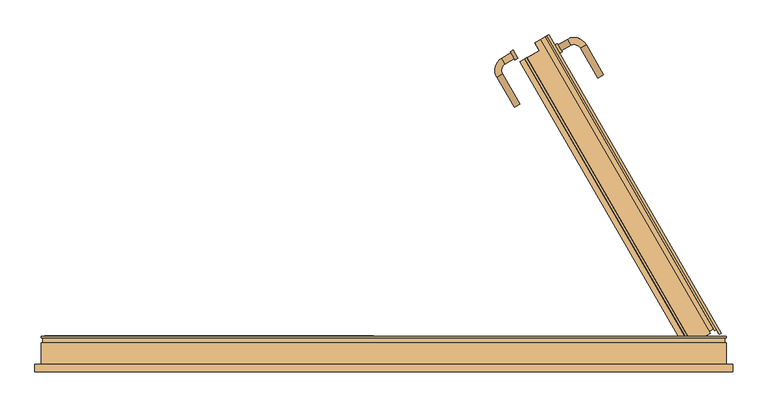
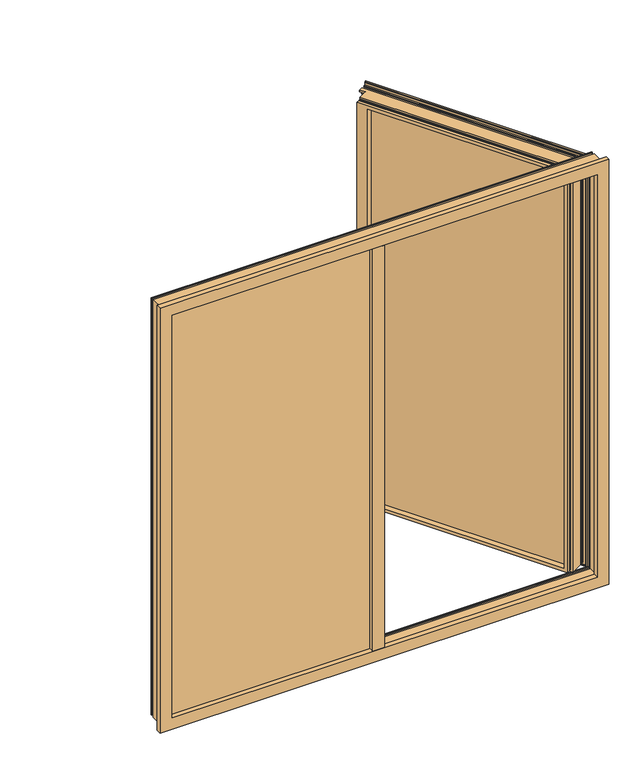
"""IFC4 building model written with IfcOpenShell, lengths in millimetres: door geometry, Comfort+_CID-2_Metaglas : KozijnMerk."""

import ifcopenshell
import ifcopenshell.guid

model = None  # the IFC model being written
_history = None  # IfcOwnerHistory: only IFC2X3 demands one
_inside = {}  # id of a spatial element -> (the spatial element, [elements in it])
_under = {}  # id of a project, library or spatial element -> (it, [spatial elements below it])
_declared = {}  # id of a project -> (the project, [libraries it declares])
_typed = {}  # id of a type object -> (the type object, [elements of that type])
_made_of = {}  # id of a material, layer set ... -> (it, [elements and type objects made of it])


def new_model(schema):
    """Start an empty IFC model of exactly this schema.

    Asked for "IFC4X3", IfcOpenShell would pick the latest addendum, in which some entities
    have other attributes; the version numbers below select the first issue.
    IFC2X3 requires an IfcOwnerHistory on every rooted entity: one is made here for all.
    """
    global model, _history
    if schema == "IFC4X3":
        model = ifcopenshell.file(schema_version=(4, 3, 0, 0))
    else:
        model = ifcopenshell.file(schema=schema)
    _inside.clear()
    _under.clear()
    _declared.clear()
    _typed.clear()
    _made_of.clear()
    _history = None
    if model.schema == "IFC2X3":
        org = make("IfcOrganization", Name="unknown")
        user = make(
            "IfcPersonAndOrganization",
            ThePerson=make("IfcPerson", FamilyName="unknown"),
            TheOrganization=org,
        )
        app = make(
            "IfcApplication",
            ApplicationDeveloper=org,
            Version="unknown",
            ApplicationFullName="unknown",
            ApplicationIdentifier="unknown",
        )
        _history = make(
            "IfcOwnerHistory",
            OwningUser=user,
            OwningApplication=app,
            ChangeAction="ADDED",
            CreationDate=0,
        )
    return model


def make(cls, **values):
    """One entity of the class cls with the attributes given. An attribute that is None is left unset."""
    return model.create_entity(
        cls, **{name: value for name, value in values.items() if value is not None}
    )


def rooted(cls, **values):
    """An entity with a GlobalId (a new one), such as an element, a storey or a relation."""
    return make(cls, GlobalId=ifcopenshell.guid.new(), OwnerHistory=_history, **values)


def si_unit(unit_type, name, prefix=None):
    """IfcSIUnit, for example si_unit("LENGTHUNIT", "METRE", prefix="MILLI")."""
    return make("IfcSIUnit", UnitType=unit_type, Prefix=prefix, Name=name)


def assignment(units):
    """IfcUnitAssignment: the units of a project."""
    return None if units is None else make("IfcUnitAssignment", Units=units)


def point(xyz):
    """IfcCartesianPoint."""
    return None if xyz is None else make("IfcCartesianPoint", Coordinates=xyz)


def direction(xyz):
    """IfcDirection."""
    return None if xyz is None else make("IfcDirection", DirectionRatios=xyz)


def frame(location, z_axis=None, x_axis=None):
    """IfcAxis2Placement3D, a coordinate frame: its origin and axes. An axis left out is left unset."""
    return make(
        "IfcAxis2Placement3D",
        Location=point(location),
        Axis=direction(z_axis),
        RefDirection=direction(x_axis),
    )


def frame_2d(location, x_axis=None):
    """IfcAxis2Placement2D, a coordinate frame in the plane: its origin and x axis."""
    return make(
        "IfcAxis2Placement2D", Location=point(location), RefDirection=direction(x_axis)
    )


def origin():
    """The frame at (0, 0, 0) with its axes left unset."""
    return frame((0.0, 0.0, 0.0))


def place(relative_to, where):
    """IfcLocalPlacement: puts the frame where relative to a parent placement (None: the world)."""
    return make(
        "IfcLocalPlacement", PlacementRelTo=relative_to, RelativePlacement=where
    )


def context(
    kind, dimensions, precision=None, world=None, true_north=None, identifier=None
):
    """IfcGeometricRepresentationContext, for example the 3D "Model" context."""
    return make(
        "IfcGeometricRepresentationContext",
        ContextIdentifier=identifier,
        ContextType=kind,
        CoordinateSpaceDimension=dimensions,
        Precision=precision,
        WorldCoordinateSystem=world,
        TrueNorth=true_north,
    )


def project(units=None, contexts=None):
    """IfcProject with its units and contexts."""
    return rooted(
        "IfcProject",
        Name="project",
        RepresentationContexts=contexts,
        UnitsInContext=assignment(units),
    )


def spatial(cls, under=None, at=None, **own):
    """A site, building, storey or space (cls), placed at a placement, below another one or the project."""
    s = rooted(cls, ObjectPlacement=at, **own)
    if under is not None:
        _under.setdefault(under.id(), (under, []))[1].append(s)
    return s


def polyline(points):
    """IfcPolyline through the points."""
    return make("IfcPolyline", Points=[point(p) for p in points])


def circle_curve(where, radius):
    """IfcCircle in the frame where."""
    return make("IfcCircle", Position=where, Radius=radius)


def ellipse_curve(where, semi_axis1, semi_axis2):
    """IfcEllipse in the frame where."""
    return make(
        "IfcEllipse", Position=where, SemiAxis1=semi_axis1, SemiAxis2=semi_axis2
    )


def trimmed(basis, trim1, trim2, sense, master):
    """IfcTrimmedCurve: the piece of a basis curve between two trims."""
    return make(
        "IfcTrimmedCurve",
        BasisCurve=basis,
        Trim1=trim1,
        Trim2=trim2,
        SenseAgreement=sense,
        MasterRepresentation=master,
    )


def segment(curve, same_sense, transition):
    """IfcCompositeCurveSegment."""
    return make(
        "IfcCompositeCurveSegment",
        Transition=transition,
        SameSense=same_sense,
        ParentCurve=curve,
    )


def composite_curve(segments, self_intersect=None):
    """IfcCompositeCurve: segments joined end to end."""
    return make("IfcCompositeCurve", Segments=segments, SelfIntersect=self_intersect)


def outline(outer, holes=None, kind="AREA"):
    """IfcArbitraryClosedProfileDef: a profile drawn as a closed curve; with holes, ...WithVoids."""
    if holes is None:
        return make("IfcArbitraryClosedProfileDef", ProfileType=kind, OuterCurve=outer)
    return make(
        "IfcArbitraryProfileDefWithVoids",
        ProfileType=kind,
        OuterCurve=outer,
        InnerCurves=holes,
    )


def extrude(swept, where, along, depth):
    """IfcExtrudedAreaSolid: the profile swept, set in the frame where, extruded along a direction by depth."""
    return make(
        "IfcExtrudedAreaSolid",
        SweptArea=swept,
        Position=where,
        ExtrudedDirection=direction(along),
        Depth=depth,
    )


def faces_of(points, faces, orient=None, outer=None):
    """IfcFace entities. A face is a list of loops; a loop is a list of indices into points, from 0.

    orient and outer hold one flag for each loop. By default every Orientation is true, the
    first loop of a face is its IfcFaceOuterBound and the others are IfcFaceBound.
    """
    made = []
    for i, loops in enumerate(faces):
        bounds = []
        for j, loop in enumerate(loops):
            is_outer = j == 0 if outer is None else outer[i][j]
            bounds.append(
                make(
                    "IfcFaceOuterBound" if is_outer else "IfcFaceBound",
                    Bound=make("IfcPolyLoop", Polygon=[points[k] for k in loop]),
                    Orientation=True if orient is None else orient[i][j],
                )
            )
        made.append(make("IfcFace", Bounds=bounds))
    return made


def faceted_brep(points, faces, orient=None, outer=None, voids=None):
    """IfcFacetedBrep: a solid bounded by flat faces; with voids (closed shells), ...WithVoids."""
    shared = [point(p) for p in points]
    hull = make("IfcClosedShell", CfsFaces=faces_of(shared, faces, orient, outer))
    if voids is None:
        return make("IfcFacetedBrep", Outer=hull)
    return make(
        "IfcFacetedBrepWithVoids",
        Outer=hull,
        Voids=[
            make(cls, CfsFaces=faces_of(shared, fs, o, b)) for cls, fs, o, b in voids
        ],
    )


def shape(context_of_items, identifier, shape_type, items):
    """IfcShapeRepresentation: the items that make up one representation, for example the "Body"."""
    return make(
        "IfcShapeRepresentation",
        ContextOfItems=context_of_items,
        RepresentationIdentifier=identifier,
        RepresentationType=shape_type,
        Items=items,
    )


def source(mapping_origin, context_of_items, identifier, shape_type, items):
    """IfcRepresentationMap: a shape defined once, which mapped items show again and again."""
    return make(
        "IfcRepresentationMap",
        MappingOrigin=mapping_origin,
        MappedRepresentation=shape(context_of_items, identifier, shape_type, items),
    )


def transform(
    local_origin,
    x_axis=None,
    y_axis=None,
    z_axis=None,
    scale=None,
    scale2=None,
    scale3=None,
    uniform=True,
):
    """IfcCartesianTransformationOperator3D, or its non-uniform kind. x_axis, y_axis, z_axis: its Axis1, 2, 3."""
    if uniform:
        return make(
            "IfcCartesianTransformationOperator3D",
            Axis1=direction(x_axis),
            Axis2=direction(y_axis),
            LocalOrigin=point(local_origin),
            Scale=scale,
            Axis3=direction(z_axis),
        )
    return make(
        "IfcCartesianTransformationOperator3DnonUniform",
        Axis1=direction(x_axis),
        Axis2=direction(y_axis),
        LocalOrigin=point(local_origin),
        Scale=scale,
        Axis3=direction(z_axis),
        Scale2=scale2,
        Scale3=scale3,
    )


def mapped(mapping_source, mapping_target):
    """IfcMappedItem: shows the shape of a source again, moved by a transform."""
    return make(
        "IfcMappedItem", MappingSource=mapping_source, MappingTarget=mapping_target
    )


def made_of(thing, what):
    """Note that an element or type object is made of a material, layer set ...; save() writes the relation."""
    if what is not None:
        _made_of.setdefault(what.id(), (what, []))[1].append(thing)
    return thing


def element(
    cls,
    number,
    at=None,
    inside=None,
    cuts=None,
    type_object=None,
    material=None,
    context=None,
    identifier="Body",
    shape_type=None,
    held_by="IfcProductDefinitionShape",
    body=None,
    shapes=None,
    **own,
):
    """One element of the class cls, such as IfcWall. Its Tag is "e" and its number.

    at: its placement. inside: the storey or other place that contains it. cuts: it is an
    opening in that element (IfcRelVoidsElement). A single representation is given by context,
    identifier, shape_type and body (its items); several are given by shapes. held_by: the class
    of the entity that holds the representations. save() writes the other relations.
    """
    e = rooted(cls, Tag="e%d" % number, ObjectPlacement=at, **own)
    if body is not None:
        shapes = [shape(context, identifier, shape_type, body)]
    if shapes is not None:
        e.Representation = make(held_by, Representations=shapes)
    if inside is not None:
        _inside.setdefault(inside.id(), (inside, []))[1].append(e)
    if cuts is not None:
        rooted(
            "IfcRelVoidsElement", RelatingBuildingElement=cuts, RelatedOpeningElement=e
        )
    if type_object is not None:
        _typed.setdefault(type_object.id(), (type_object, []))[1].append(e)
    return made_of(e, material)


def aggregate(whole, parts):
    """IfcRelAggregates: a whole, such as a stair, and the parts it consists of."""
    return rooted("IfcRelAggregates", RelatingObject=whole, RelatedObjects=parts)


def save(model, path):
    """Write the relations noted so far, then the file.

    IfcRelAggregates (storeys below a building ...), IfcRelContainedInSpatialStructure (elements
    in a storey), IfcRelDefinesByType, IfcRelAssociatesMaterial and IfcRelDeclares: one each for
    every whole, place, type object, material and project.
    """
    for whole, parts in _under.values():
        aggregate(whole, parts)
    for where, things in _inside.values():
        rooted(
            "IfcRelContainedInSpatialStructure",
            RelatedElements=things,
            RelatingStructure=where,
        )
    for kind, things in _typed.values():
        rooted("IfcRelDefinesByType", RelatedObjects=things, RelatingType=kind)
    for what, things in _made_of.values():
        rooted("IfcRelAssociatesMaterial", RelatedObjects=things, RelatingMaterial=what)
    for by, libraries in _declared.values():
        rooted("IfcRelDeclares", RelatingContext=by, RelatedDefinitions=libraries)
    model.write(path)


def plane_surface(at):
    """IfcPlane: the flat surface through the origin of the frame at, square to its z axis."""
    return make("IfcPlane", Position=at)


def cylinder_surface(at, radius):
    """IfcCylindricalSurface: all points at the distance radius from the z axis of the frame at."""
    return make("IfcCylindricalSurface", Position=at, Radius=radius)


def revolved_surface(curve, axis_point, axis_direction):
    """IfcSurfaceOfRevolution: the curve turned about the line through axis_point along axis_direction."""
    return make(
        "IfcSurfaceOfRevolution",
        SweptCurve=make("IfcArbitraryOpenProfileDef", ProfileType="CURVE", Curve=curve),
        AxisPosition=make("IfcAxis1Placement", Location=point(axis_point), Axis=direction(axis_direction)),
    )


def advanced_brep(points, edges, surfaces, faces):
    """IfcAdvancedBrep: a solid bounded by faces that lie on surfaces and meet in shared edges.

    An edge is (start, end): straight between two places in points (the first is 0);
    or (start, end, curve); or (start, end, curve, False) where it runs against its curve.
    A face is (place in surfaces, loops), or (place, loops, False) where it looks against
    its surface's normal. A loop lists edges by number (the first is 1), with a minus sign
    where the edge is run from its end to its start. The first loop is the outer one.
    """
    corners = [point(p) for p in points]
    vertices = [make("IfcVertexPoint", VertexGeometry=c) for c in corners]
    made = []
    for start, end, *more in edges:
        made.append(
            make(
                "IfcEdgeCurve",
                EdgeStart=vertices[start],
                EdgeEnd=vertices[end],
                EdgeGeometry=more[0] if more else make("IfcPolyline", Points=[corners[start], corners[end]]),
                SameSense=more[1] if len(more) > 1 else True,
            )
        )
    hull = []
    for where, loops, *sense in faces:
        bounds = []
        for j, loop in enumerate(loops):
            ring = [make("IfcOrientedEdge", EdgeElement=made[abs(k) - 1], Orientation=k > 0) for k in loop]
            bounds.append(
                make(
                    "IfcFaceOuterBound" if j == 0 else "IfcFaceBound",
                    Bound=make("IfcEdgeLoop", EdgeList=ring),
                    Orientation=True,
                )
            )
        hull.append(make("IfcAdvancedFace", Bounds=bounds, FaceSurface=surfaces[where], SameSense=sense[0] if sense else True))
    return make("IfcAdvancedBrep", Outer=make("IfcClosedShell", CfsFaces=hull))


def door_63323bb3(model_context):
    return source(origin(), model_context, "Body", "SolidModel", [
        extrude(outline(composite_curve([segment(polyline([(-142.592674, 0.0), (30.413355, 0.0)]), True, "CONTINUOUS"), segment(trimmed(circle_curve(frame_2d((30.413355, -14.0)), 14.0), [point((30.413355, 0.0))], [point((30.413355, -28.0))], False, "CARTESIAN"), True, "CONTINUOUS"), segment(polyline([(30.413355, -28.0), (-142.592674, -28.0)]), True, "CONTINUOUS"), segment(trimmed(circle_curve(frame_2d((-142.592674, -14.0)), 14.0), [point((-142.592674, -28.0))], [point((-142.592674, 0.0))], False, "CARTESIAN"), True, "CONTINUOUS")], self_intersect=False)), frame((362.6241819, 868.4962512, 1793.4152867), z_axis=(0.8660254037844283, 0.5000000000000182, 0.0), x_axis=(0.0, 0.0, -1.0)), (0.0, 0.0, 1.0), 9.0),
        advanced_brep(
        [(364.8741819, 864.5991369, 1922.5), (374.3741819, 848.1446542, 1922.5), (338.4604071, 849.3491369, 1922.5), (347.9604071, 832.8946542, 1922.5), (340.4568863, 804.8911334, 1922.5), (324.0024037, 795.3911334, 1922.5), (374.0024036, 708.7885931, 1922.5), (390.4568863, 718.2885931, 1922.5)],
        [
            (0, 1, circle_curve(frame((369.6241819, 856.3718956, 1922.5), z_axis=(0.8660254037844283, 0.5000000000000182, 0.0), x_axis=(0.5000000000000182, -0.8660254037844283, 0.0)), 9.5)),
            (1, 0, circle_curve(frame((369.6241819, 856.3718956, 1922.5), z_axis=(0.8660254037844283, 0.5000000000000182, 0.0), x_axis=(0.5000000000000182, -0.8660254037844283, 0.0)), 9.5)),
            (0, 2),
            (2, 3, circle_curve(frame((343.2104071, 841.1218956, 1922.5), z_axis=(0.8660254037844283, 0.5000000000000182, 0.0), x_axis=(0.5000000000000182, -0.8660254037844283, 0.0)), 9.5)),
            (3, 1),
            (3, 2, circle_curve(frame((343.2104071, 841.1218956, 1922.5), z_axis=(0.8660254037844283, 0.5000000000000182, 0.0), x_axis=(0.5000000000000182, -0.8660254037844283, 0.0)), 9.5)),
            (4, 3, circle_curve(frame((358.2104071, 815.1411334, 1922.5), z_axis=(0.0, 0.0, -1.0), x_axis=(-0.5000000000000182, 0.8660254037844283, 0.0)), 20.5)),
            (2, 5, circle_curve(frame((358.2104071, 815.1411334, 1922.5), z_axis=(0.0, 0.0, 1.0), x_axis=(-0.5000000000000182, 0.8660254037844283, 0.0)), 39.5)),
            (5, 4, circle_curve(frame((332.229645, 800.1411334, 1922.5), z_axis=(-0.5000000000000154, 0.8660254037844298, 0.0), x_axis=(0.8660254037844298, 0.5000000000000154, 0.0)), 9.5)),
            (4, 5, circle_curve(frame((332.229645, 800.1411334, 1922.5), z_axis=(-0.5000000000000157, 0.8660254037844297, 0.0), x_axis=(0.8660254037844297, 0.5000000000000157, 0.0)), 9.5)),
            (6, 7, circle_curve(frame((382.229645, 713.5385931, 1922.5), z_axis=(0.5000000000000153, -0.8660254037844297, 0.0), x_axis=(0.8660254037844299, 0.5000000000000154, 0.0)), 9.5)),
            (7, 6, circle_curve(frame((382.229645, 713.5385931, 1922.5), z_axis=(0.5000000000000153, -0.8660254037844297, 0.0), x_axis=(0.8660254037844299, 0.5000000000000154, 0.0)), 9.5)),
            (5, 6),
            (7, 4),
        ],
        [
            plane_surface(frame((369.6241819, 856.3718956, 1922.5), z_axis=(0.8660254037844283, 0.5000000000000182, 0.0), x_axis=(0.0, 0.0, 1.0))),
            cylinder_surface(frame((369.6241819, 856.3718956, 1922.5), z_axis=(0.8660254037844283, 0.5000000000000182, 0.0), x_axis=(0.5000000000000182, -0.8660254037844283, 0.0)), 9.5),
            revolved_surface(trimmed(ellipse_curve(frame((343.2104071, 841.1218956, 1922.5), z_axis=(0.8660254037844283, 0.5000000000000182, 0.0), x_axis=(0.5000000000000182, -0.8660254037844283, 0.0)), 9.5, 9.5), [point((338.4604071, 849.3491369, 1922.5))], [point((347.9604071, 832.8946542, 1922.5))], True, "CARTESIAN"), (358.2104071, 815.1411334, 1922.5), (0.0, 0.0, 1.0000000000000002)),
            revolved_surface(trimmed(ellipse_curve(frame((343.2104071, 841.1218956, 1922.5), z_axis=(0.8660254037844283, 0.5000000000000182, 0.0), x_axis=(0.5000000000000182, -0.8660254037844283, 0.0)), 9.5, 9.5), [point((347.9604071, 832.8946542, 1922.5))], [point((338.4604071, 849.3491369, 1922.5))], True, "CARTESIAN"), (358.2104071, 815.1411334, 1922.5), (0.0, 0.0, 1.0000000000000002)),
            plane_surface(frame((382.229645, 713.5385931, 1922.5), z_axis=(0.5000000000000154, -0.8660254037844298, 0.0), x_axis=(0.0, 0.0, 1.0))),
            cylinder_surface(frame((332.229645, 800.1411334, 1922.5), z_axis=(-0.5000000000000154, 0.8660254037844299, 0.0), x_axis=(0.8660254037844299, 0.5000000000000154, 0.0)), 9.5),
        ],
        [
            (0, [[1, 2]]),
            (1, [[-1, 3, 4, 5]]),
            (1, [[-2, -5, 6, -3]]),
            (2, [[7, -4, 8, 9]]),
            (3, [[-8, -6, -7, 10]]),
            (4, [[11, 12]]),
            (5, [[-9, 13, -12, 14]]),
            (5, [[-10, -14, -11, -13]]),
        ],
    ),
        extrude(outline(polyline([(474.8051363, 844.9930889), (922.8551363, 68.9477245), (917.6589838, 65.9477245), (469.6089838, 841.9930889), (474.8051363, 844.9930889)])), frame((0.0, 0.0, 858.0), z_axis=(0.0, 0.0, 1.0), x_axis=(1.0, 0.0, 0.0)), (0.0, 0.0, 1.0), 1884.0),
        extrude(outline(polyline([(456.6186028, 834.4930889), (904.6686028, 58.4477245), (900.7714885, 56.1977245), (452.7214885, 832.2430889), (456.6186028, 834.4930889)])), frame((0.0, 0.0, 858.0), z_axis=(0.0, 0.0, 1.0), x_axis=(1.0, 0.0, 0.0)), (0.0, 0.0, 1.0), 1884.0),
        extrude(outline(polyline([(439.7311074, 824.7430889), (887.7811074, 48.6977245), (882.584955, 45.6977245), (434.534955, 821.7430889), (439.7311074, 824.7430889)])), frame((0.0, 0.0, 858.0), z_axis=(0.0, 0.0, 1.0), x_axis=(1.0, 0.0, 0.0)), (0.0, 0.0, 1.0), 1884.0),
        extrude(outline(polyline([(896.1000001, -1884.0), (0.0, -1884.0), (0.0, 0.0), (896.1000001, 0.0), (896.1000001, -1884.0)]), holes=[polyline([(884.1, -12.0), (12.0, -12.0), (12.0, -1872.0), (884.1, -1872.0), (884.1, -12.0)])]), frame((904.6686028, 58.4477245, 2742.0), z_axis=(0.8660254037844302, 0.5000000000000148, 0.0), x_axis=(-0.5000000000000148, 0.8660254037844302, 0.0)), (0.0, 0.0, 1.0), 15.0),
        extrude(outline(polyline([(896.1000001, -1884.0), (0.0, -1884.0), (0.0, 0.0), (896.1000001, 0.0), (896.1000001, -1884.0)]), holes=[polyline([(884.1, -12.0), (12.0, -12.0), (12.0, -1872.0), (884.1, -1872.0), (884.1, -12.0)])]), frame((887.7811074, 48.6977245, 2742.0), z_axis=(0.8660254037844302, 0.5000000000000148, 0.0), x_axis=(-0.5000000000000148, 0.8660254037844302, 0.0)), (0.0, 0.0, 1.0), 15.0),
        faceted_brep([(445.2871919, 900.1196794, 2727.9999691), (445.2871919, 900.1196794, 2744.0999691), (433.376379, 893.2429684, 2744.0999691), (433.376379, 893.2429684, 2752.5013297), (449.6606202, 902.6446794, 2752.5013297), (449.6606202, 902.6446794, 2751.0), (447.4955567, 901.3946794, 2751.0), (447.4955567, 901.3946794, 2747.993792), (449.6606202, 902.6446794, 2747.993792), (449.6606202, 902.6446794, 2746.50005), (462.6501988, 910.1442161, 2746.50005), (462.6501988, 910.1442161, 2748.00002), (464.8158106, 911.3945326, 2748.00002), (464.8158106, 911.3945326, 2751.0), (462.6501988, 910.1442161, 2751.0), (462.6501988, 910.1442161, 2752.5013297), (467.8038524, 913.1196794, 2752.5013297), (467.8038524, 913.1196794, 2762.0431852), (470.7082299, 914.7965225, 2762.0431852), (470.7082299, 914.7965225, 2765.9068148), (467.8038524, 913.1196794, 2765.9068148), (467.8038524, 913.1196794, 2768.0), (473.0, 916.1196766, 2768.0), (473.0, 916.1196766, 832.0), (467.8038524, 913.1196794, 832.0), (467.8038524, 913.1196794, 834.0931852), (470.7082299, 914.7965225, 834.0931852), (470.7082299, 914.7965225, 837.9568148), (467.8038524, 913.1196794, 837.9568148), (467.8038524, 913.1196794, 847.4986703), (462.6501988, 910.1442161, 847.4986703), (462.6501988, 910.1442161, 849.0), (464.8158106, 911.3945326, 849.0), (464.8158106, 911.3945326, 851.99998), (462.6501988, 910.1442161, 851.99998), (462.6501988, 910.1442161, 853.49995), (449.6606202, 902.6446794, 853.49995), (449.6606202, 902.6446794, 852.006208), (447.4955567, 901.3946794, 852.006208), (447.4955567, 901.3946794, 849.0), (449.6606202, 902.6446794, 849.0), (449.6606202, 902.6446794, 847.4986703), (433.376379, 893.2429684, 847.4986703), (433.376379, 893.2429684, 855.9000309), (445.2871919, 900.1196794, 855.9000309), (445.2871919, 900.1196794, 872.0000309), (467.8038524, 913.1196794, 872.0000309), (467.8038524, 913.1196794, 2727.9999691), (967.05, 60.3999751, 2768.0), (967.05, 60.3999751, 832.0), (947.0499845, 95.041018, 872.0000309), (947.0499845, 95.041018, 2727.9999691), (509.5, 852.8998221, 2727.9999691), (509.5, 852.8998221, 872.0000309), (961.8538524, 57.3999779, 832.0), (960.8072599, 59.2127295, 2765.9068148), (960.8072599, 59.2127295, 834.0931852), (961.8538524, 57.3999779, 2768.0), (963.7116374, 60.8895726, 834.0931852), (961.7798225, 64.235574, 2762.0431852), (961.7798225, 64.235574, 837.9568148), (963.7116374, 60.8895726, 2765.9068148), (958.875445, 62.5587309, 837.9568148), (954.1045173, 70.8222201, 2752.5013297), (954.1045173, 70.8222201, 847.4986703), (958.875445, 62.5587309, 2762.0431852), (948.9508637, 67.8467568, 847.4986703), (948.2001988, 69.1469465, 2751.0), (948.2001988, 69.1469465, 849.0), (948.9508637, 67.8467568, 2752.5013297), (950.3658106, 70.397263, 849.0), (948.8658206, 72.9953219, 2748.00002), (948.8658206, 72.9953219, 851.99998), (950.3658106, 70.397263, 2751.0), (946.7002088, 71.7450054, 851.99998), (945.9502238, 73.0440175, 2746.50005), (945.9502238, 73.0440175, 853.49995), (946.7002088, 71.7450054, 2748.00002), (932.9606452, 65.5444808, 853.49995), (933.7075163, 64.2508623, 2747.993792), (933.7075163, 64.2508623, 852.006208), (932.9606452, 65.5444808, 2746.50005), (931.5424527, 63.0008623, 852.006208), (933.0455567, 60.3974098, 2751.0), (933.0455567, 60.3974098, 849.0), (931.5424527, 63.0008623, 2747.993792), (935.2106202, 61.6474098, 849.0), (935.9612851, 60.3472201, 2752.5013297), (935.9612851, 60.3472201, 847.4986703), (935.2106202, 61.6474098, 2751.0), (884.9091042, 30.8722298, 847.4986703), (411.3342484, 851.1279412, 847.4986703), (446.102188, 871.2012206, 847.4986703), (446.102188, 871.2012206, 855.9000309), (446.102188, 871.2012206, 872.0000309), (446.102188, 871.2012206, 2727.9999691), (441.0515092, 879.949253, 2727.9999691), (441.0515092, 879.949253, 872.0000309), (446.102188, 871.2012206, 2744.0999691), (446.102188, 871.2012206, 2752.5013297), (927.3871765, 65.0980119, 855.9000309), (413.504204, 852.3807657, 855.9000309), (882.8783795, 39.4008459, 855.9000309), (452.9623221, 886.8259641, 2727.9999691), (473.3879834, 851.4476809, 2727.9999691), (473.3879834, 851.4476809, 872.0000309), (452.9623221, 886.8259641, 872.0000309), (927.3871765, 65.0980119, 2744.0999691), (919.3371765, 79.0410209, 2727.9999691), (919.3371765, 79.0410209, 872.0000309), (481.7871919, 836.8998249, 872.0000309), (481.7871919, 836.8998249, 2727.9999691), (457.3357504, 889.3509641, 872.0000309), (458.0864152, 888.0507744, 872.0000309), (455.9213517, 886.8007744, 872.0000309), (457.4244557, 884.197322, 872.0000309), (459.5895192, 885.447322, 872.0000309), (460.3363902, 884.1537034, 872.0000309), (473.3259688, 891.6532401, 872.0000309), (472.5759838, 892.9522522, 872.0000309), (474.7415955, 894.2025687, 872.0000309), (473.2416055, 896.8006276, 872.0000309), (471.0759938, 895.5503111, 872.0000309), (470.325329, 896.8505008, 872.0000309), (475.4789826, 899.8259641, 872.0000309), (470.7080548, 908.0894533, 872.0000309), (473.6124323, 909.7662964, 872.0000309), (471.6806175, 913.1122979, 872.0000309), (468.77624, 911.4354548, 872.0000309), (468.77624, 911.4354548, 2727.9999691), (428.0082689, 825.2476905, 2727.9999691), (428.0082689, 825.2476905, 872.0000309), (412.6332865, 851.8779412, 872.0000309), (882.8783795, 39.4008459, 2744.0999691), (880.6442053, 41.2592514, 2741.3734556), (880.6442053, 41.2592514, 858.6265444), (412.6332865, 851.8779412, 858.6265444), (412.6332865, 851.8779412, 865.7398087), (877.0875731, 47.419519, 865.7398087), (877.0875731, 47.419519, 2734.2601913), (412.6332865, 851.8779412, 2734.2601913), (412.6332865, 851.8779412, 2741.3734556), (390.116626, 838.8779412, 2742.3999232), (402.695645, 846.1404412, 2742.3999232), (402.695645, 846.1404412, 2740.0499232), (405.2504199, 847.6154412, 2740.0499232), (405.2504199, 847.6154412, 2742.3999232), (409.5564809, 850.1015467, 2742.3999232), (411.3342484, 851.1279412, 2744.4527122), (411.3342484, 851.1279412, 2752.5013297), (413.504204, 852.3807657, 2744.0999691), (409.8530645, 850.2727793, 2734.2601913), (409.8530645, 850.2727793, 2730.3897468), (412.6332865, 851.8779412, 2730.3897468), (412.6332865, 851.8779412, 2727.9999691), (412.6332865, 851.8779412, 869.6102532), (409.8530645, 850.2727793, 869.6102532), (409.8530645, 850.2727793, 865.7398087), (411.3342484, 851.1279412, 855.5472878), (409.5564809, 850.1015467, 857.6000768), (405.2504199, 847.6154412, 857.6000768), (405.2504199, 847.6154412, 859.9500768), (402.695645, 846.1404412, 859.9500768), (402.695645, 846.1404412, 857.6000768), (390.116626, 838.8779412, 857.6000768), (405.2504199, 847.6154412, 872.0000309), (405.2504199, 847.6154412, 2727.9999691), (402.695645, 846.1404412, 2727.9999691), (402.695645, 846.1404412, 872.0000309), (874.3073511, 45.814357, 865.7398087), (874.3073511, 45.814357, 2734.2601913), (872.3721288, 49.1662603, 869.6102532), (872.3721288, 49.1662603, 2730.3897468), (875.1523509, 50.7714222, 869.6102532), (875.1523509, 50.7714222, 2730.3897468), (873.957462, 52.8410305, 872.0000309), (873.957462, 52.8410305, 2727.9999691), (436.4074775, 810.6998346, 2727.9999691), (436.4074775, 810.6998346, 872.0000309), (435.1649194, 812.8520083, 872.0000309), (435.1649194, 812.8520083, 2727.9999691), (433.2296971, 816.2039116, 2727.9999691), (433.2296971, 816.2039116, 872.0000309), (851.4408015, 39.8410305, 872.0000309), (851.4408015, 39.8410305, 2727.9999691), (413.9848031, 797.7540975, 2727.9999691), (413.9848031, 797.7540975, 872.0000309), (430.4494751, 814.5987497, 872.0000309), (432.3846973, 811.2468464, 872.0000309), (406.4254199, 845.5802815, 872.0000309), (403.870645, 844.1052815, 872.0000309), (432.3846973, 811.2468464, 2727.9999691), (430.4494751, 814.5987497, 2727.9999691), (858.6407786, 27.3703044, 857.6000768), (858.6407786, 27.3703044, 2742.3999232), (871.2197976, 34.6328044, 857.6000768), (871.2197976, 34.6328044, 2742.3999232), (870.0447976, 36.6679641, 859.9500768), (870.0447976, 36.6679641, 2740.0499232), (872.5995725, 38.1429641, 859.9500768), (872.5995725, 38.1429641, 2740.0499232), (873.7745725, 36.1078044, 857.6000768), (873.7745725, 36.1078044, 2742.3999232), (878.0806335, 38.5939099, 857.6000768), (878.0806335, 38.5939099, 2742.3999232), (880.8847955, 37.8425369, 2744.4527122), (880.8847955, 37.8425369, 855.5472878), (884.9091042, 30.8722298, 2752.5013297), (457.3357504, 889.3509641, 2727.9999691), (458.0864152, 888.0507744, 2727.9999691), (455.9213517, 886.8007744, 2727.9999691), (457.4244557, 884.197322, 2727.9999691), (459.5895192, 885.447322, 2727.9999691), (460.3363902, 884.1537034, 2727.9999691), (473.3259688, 891.6532401, 2727.9999691), (472.5759838, 892.9522522, 2727.9999691), (474.7415955, 894.2025687, 2727.9999691), (473.2416055, 896.8006276, 2727.9999691), (471.0759938, 895.5503111, 2727.9999691), (470.325329, 896.8505008, 2727.9999691), (475.4789826, 899.8259641, 2727.9999691), (470.7080548, 908.0894533, 2727.9999691), (473.6124323, 909.7662964, 2727.9999691), (471.6806175, 913.1122979, 2727.9999691), (406.4254199, 845.5802815, 2727.9999691), (403.870645, 844.1052815, 2727.9999691)], [[[0, 1, 2, 3, 4, 5, 6, 7, 8, 9, 10, 11, 12, 13, 14, 15, 16, 17, 18, 19, 20, 21, 22, 23, 24, 25, 26, 27, 28, 29, 30, 31, 32, 33, 34, 35, 36, 37, 38, 39, 40, 41, 42, 43, 44, 45, 46, 47]], [[22, 48, 49, 23], [50, 51, 52, 53]], [[54, 24, 23, 49]], [[21, 20, 55, 56, 25, 24, 54, 57]], [[58, 26, 25, 56]], [[19, 18, 59, 60, 27, 26, 58, 61]], [[62, 28, 27, 60]], [[17, 16, 63, 64, 29, 28, 62, 65]], [[66, 30, 29, 64]], [[15, 14, 67, 68, 31, 30, 66, 69]], [[70, 32, 31, 68]], [[13, 12, 71, 72, 33, 32, 70, 73]], [[74, 34, 33, 72]], [[11, 10, 75, 76, 35, 34, 74, 77]], [[78, 36, 35, 76]], [[9, 8, 79, 80, 37, 36, 78, 81]], [[82, 38, 37, 80]], [[7, 6, 83, 84, 39, 38, 82, 85]], [[86, 40, 39, 84]], [[5, 4, 87, 88, 41, 40, 86, 89]], [[41, 88, 90, 91, 92, 42]], [[92, 93, 43, 42]], [[94, 95, 96, 97]], [[98, 99, 3, 2]], [[100, 44, 43, 93, 101, 102]], [[1, 0, 103, 104, 105, 106, 45, 44, 100, 107], [108, 109, 110, 111]], [[45, 106, 112, 113, 114, 115, 116, 117, 118, 119, 120, 121, 122, 123, 124, 125, 126, 127, 128, 46]], [[109, 50, 53, 110]], [[47, 46, 128, 129]], [[104, 130, 131, 105]], [[105, 131, 132, 94, 97, 106]], [[107, 100, 102, 133]], [[108, 51, 50, 109]], [[53, 52, 111, 110]], [[134, 135, 136, 137, 138, 139, 140, 141]], [[134, 133, 102, 135]], [[135, 102, 101, 136]], [[142, 143, 144, 145, 146, 147, 148, 149, 99, 98, 150, 141, 140, 151, 152, 153, 154, 95, 94, 132, 155, 156, 157, 137, 136, 101, 93, 92, 91, 158, 159, 160, 161, 162, 163, 164], [165, 166, 167, 168]], [[169, 138, 137, 157]], [[139, 138, 169, 170]], [[170, 169, 157, 156, 171, 172, 152, 151]], [[173, 171, 156, 155]], [[172, 171, 173, 174]], [[174, 173, 155, 132, 131, 130, 154, 153], [175, 176, 177, 178], [179, 180, 181, 182]], [[176, 175, 183, 184]], [[185, 186, 178, 177]], [[183, 175, 178, 186]], [[179, 182, 187, 188]], [[189, 165, 168, 190]], [[180, 179, 188, 191]], [[192, 187, 182, 181]], [[193, 194, 142, 164], [184, 183, 186, 185]], [[194, 193, 195, 196]], [[195, 193, 164, 163]], [[196, 195, 163, 162, 197, 198, 144, 143]], [[199, 197, 162, 161]], [[198, 197, 199, 200]], [[200, 199, 161, 160, 201, 202, 146, 145]], [[203, 201, 160, 159]], [[202, 201, 203, 204]], [[205, 206, 158, 91, 90, 207, 149, 148]], [[205, 204, 203, 206]], [[206, 203, 159, 158]], [[207, 90, 88, 87]], [[89, 86, 84, 83]], [[85, 82, 80, 79]], [[81, 78, 76, 75]], [[77, 74, 72, 71]], [[73, 70, 68, 67]], [[69, 66, 64, 63]], [[65, 62, 60, 59]], [[61, 58, 56, 55]], [[57, 54, 49, 48]], [[208, 112, 106, 97, 96, 103]], [[209, 113, 112, 208]], [[210, 114, 113, 209]], [[211, 115, 114, 210]], [[212, 116, 115, 211]], [[213, 117, 116, 212]], [[214, 118, 117, 213]], [[215, 119, 118, 214]], [[216, 120, 119, 215]], [[217, 121, 120, 216]], [[218, 122, 121, 217]], [[219, 123, 122, 218]], [[220, 124, 123, 219]], [[221, 125, 124, 220]], [[222, 126, 125, 221]], [[223, 127, 126, 222]], [[129, 128, 127, 223]], [[191, 188, 187, 192]], [[166, 165, 189, 224]], [[225, 190, 168, 167]], [[224, 189, 190, 225]], [[0, 47, 129, 223, 222, 221, 220, 219, 218, 217, 216, 215, 214, 213, 212, 211, 210, 209, 208, 103]], [[51, 108, 111, 52]], [[1, 107, 133, 150, 98, 2]], [[133, 134, 141, 150]], [[139, 170, 151, 140]], [[172, 174, 153, 152]], [[176, 184, 185, 177]], [[181, 180, 191, 192]], [[166, 224, 225, 167]], [[194, 196, 143, 142]], [[198, 200, 145, 144]], [[202, 204, 147, 146]], [[204, 205, 148, 147]], [[207, 87, 4, 3, 99, 149]], [[6, 5, 89, 83]], [[8, 7, 85, 79]], [[10, 9, 81, 75]], [[12, 11, 77, 71]], [[14, 13, 73, 67]], [[16, 15, 69, 63]], [[18, 17, 65, 59]], [[20, 19, 61, 55]], [[22, 21, 57, 48]], [[130, 104, 103, 96, 95, 154]]]),
        extrude(outline(composite_curve([segment(polyline([(142.592674, 0.0), (-30.413355, 0.0)]), True, "CONTINUOUS"), segment(trimmed(circle_curve(frame_2d((-30.413355, 14.0)), 14.0), [point((-30.413355, 0.0))], [point((-30.413355, 28.0))], False, "CARTESIAN"), True, "CONTINUOUS"), segment(polyline([(-30.413355, 28.0), (142.592674, 28.0)]), True, "CONTINUOUS"), segment(trimmed(circle_curve(frame_2d((142.592674, 14.0)), 14.0), [point((142.592674, 28.0))], [point((142.592674, 0.0))], False, "CARTESIAN"), True, "CONTINUOUS")], self_intersect=False)), frame((489.7243206, 887.1523036, 1743.4152867), z_axis=(0.8660254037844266, 0.5000000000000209, 0.0), x_axis=(0.0, 0.0, 1.0)), (0.0, 0.0, 1.0), 9.0),
        advanced_brep(
        [(499.7685492, 887.7551893, 1872.5), (509.2685492, 871.3007066, 1872.5), (535.682324, 886.5507066, 1872.5), (526.182324, 903.0051893, 1872.5), (563.6858448, 879.0471859, 1872.5), (580.1403275, 888.5471859, 1872.5), (630.1403275, 801.9446455, 1872.5), (613.6858448, 792.4446455, 1872.5)],
        [
            (0, 1, circle_curve(frame((504.5185492, 879.527948, 1872.5), z_axis=(-0.8660254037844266, -0.5000000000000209, 0.0), x_axis=(0.5000000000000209, -0.8660254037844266, 0.0)), 9.5)),
            (1, 0, circle_curve(frame((504.5185492, 879.527948, 1872.5), z_axis=(-0.8660254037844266, -0.5000000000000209, 0.0), x_axis=(0.5000000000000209, -0.8660254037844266, 0.0)), 9.5)),
            (1, 2),
            (2, 3, circle_curve(frame((530.932324, 894.777948, 1872.5), z_axis=(-0.8660254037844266, -0.5000000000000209, 0.0), x_axis=(0.5000000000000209, -0.8660254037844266, 0.0)), 9.5)),
            (3, 0),
            (3, 2, circle_curve(frame((530.932324, 894.777948, 1872.5), z_axis=(-0.8660254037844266, -0.5000000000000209, 0.0), x_axis=(0.5000000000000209, -0.8660254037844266, 0.0)), 9.5)),
            (4, 5, circle_curve(frame((571.9130861, 883.7971859, 1872.5), z_axis=(-0.5000000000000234, 0.8660254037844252, 0.0), x_axis=(-0.8660254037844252, -0.5000000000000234, 0.0)), 9.5)),
            (5, 3, circle_curve(frame((545.932324, 868.7971859, 1872.5), z_axis=(0.0, 0.0, 1.0), x_axis=(-0.5000000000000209, 0.8660254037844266, 0.0)), 39.5)),
            (2, 4, circle_curve(frame((545.932324, 868.7971859, 1872.5), z_axis=(0.0, 0.0, -1.0), x_axis=(-0.5000000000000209, 0.8660254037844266, 0.0)), 20.5)),
            (5, 4, circle_curve(frame((571.9130861, 883.7971859, 1872.5), z_axis=(-0.5000000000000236, 0.866025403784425, 0.0), x_axis=(-0.866025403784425, -0.5000000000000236, 0.0)), 9.5)),
            (6, 7, circle_curve(frame((621.9130861, 797.1946455, 1872.5), z_axis=(0.5000000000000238, -0.8660254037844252, 0.0), x_axis=(-0.8660254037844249, -0.5000000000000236, 0.0)), 9.5)),
            (7, 6, circle_curve(frame((621.9130861, 797.1946455, 1872.5), z_axis=(0.5000000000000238, -0.8660254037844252, 0.0), x_axis=(-0.8660254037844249, -0.5000000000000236, 0.0)), 9.5)),
            (4, 7),
            (6, 5),
        ],
        [
            plane_surface(frame((504.5185492, 879.527948, 1872.5), z_axis=(-0.8660254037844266, -0.5000000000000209, 0.0), x_axis=(0.0, 0.0, 1.0))),
            cylinder_surface(frame((504.5185492, 879.527948, 1872.5), z_axis=(-0.8660254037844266, -0.5000000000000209, 0.0), x_axis=(0.5000000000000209, -0.8660254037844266, 0.0)), 9.5),
            revolved_surface(trimmed(ellipse_curve(frame((530.932324, 894.777948, 1872.5), z_axis=(0.8660254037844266, 0.5000000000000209, 0.0), x_axis=(0.5000000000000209, -0.8660254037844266, 0.0)), 9.5, 9.5), [point((526.182324, 903.0051893, 1872.5))], [point((535.682324, 886.5507066, 1872.5))], True, "CARTESIAN"), (545.932324, 868.7971859, 1872.5), (0.0, 0.0, 1.0)),
            revolved_surface(trimmed(ellipse_curve(frame((530.932324, 894.777948, 1872.5), z_axis=(0.8660254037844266, 0.5000000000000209, 0.0), x_axis=(0.5000000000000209, -0.8660254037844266, 0.0)), 9.5, 9.5), [point((535.682324, 886.5507066, 1872.5))], [point((526.182324, 903.0051893, 1872.5))], True, "CARTESIAN"), (545.932324, 868.7971859, 1872.5), (0.0, 0.0, 1.0)),
            plane_surface(frame((621.9130861, 797.1946455, 1872.5), z_axis=(0.5000000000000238, -0.866025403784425, 0.0), x_axis=(0.0, 0.0, 1.0))),
            cylinder_surface(frame((571.9130861, 883.7971859, 1872.5), z_axis=(-0.5000000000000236, 0.8660254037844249, 0.0), x_axis=(-0.8660254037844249, -0.5000000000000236, 0.0)), 9.5),
        ],
        [
            (0, [[1, 2]]),
            (1, [[3, 4, 5, -2]]),
            (1, [[-5, 6, -3, -1]]),
            (2, [[7, 8, -4, 9]]),
            (3, [[10, -9, -6, -8]]),
            (4, [[11, 12]]),
            (5, [[13, -11, 14, -7]]),
            (5, [[-14, -12, -13, -10]]),
        ],
    ),
        extrude(outline(polyline([(-959.0, -22.0), (-959.0, -16.0), (-41.0, -16.0), (-41.0, -22.0), (-959.0, -22.0)])), frame((0.0, 0.0, 836.0), z_axis=(0.0, 0.0, 1.0), x_axis=(1.0, 0.0, 0.0)), (0.0, 0.0, 1.0), 1928.0),
        extrude(outline(polyline([(-959.0, -1.0), (-959.0, 3.5), (-41.0, 3.5), (-41.0, -1.0), (-959.0, -1.0)])), frame((0.0, 0.0, 836.0), z_axis=(0.0, 0.0, 1.0), x_axis=(1.0, 0.0, 0.0)), (0.0, 0.0, 1.0), 1928.0),
        extrude(outline(polyline([(-959.0, 18.5), (-959.0, 24.5), (-41.0, 24.5), (-41.0, 18.5), (-959.0, 18.5)])), frame((0.0, 0.0, 836.0), z_axis=(0.0, 0.0, 1.0), x_axis=(1.0, 0.0, 0.0)), (0.0, 0.0, 1.0), 1928.0),
        extrude(outline(polyline([(2764.0, -959.0), (836.0, -959.0), (836.0, -41.0), (2764.0, -41.0), (2764.0, -959.0)]), holes=[polyline([(848.0, -947.0), (2752.0, -947.0), (2752.0, -53.0), (848.0, -53.0), (848.0, -947.0)])]), frame((0.0, -16.0, 0.0), z_axis=(0.0, 1.0, 0.0), x_axis=(0.0, 0.0, 1.0)), (0.0, 0.0, 1.0), 15.0),
        extrude(outline(polyline([(2764.0, -959.0), (836.0, -959.0), (836.0, -41.0), (2764.0, -41.0), (2764.0, -959.0)]), holes=[polyline([(848.0, -947.0), (2752.0, -947.0), (2752.0, -53.0), (848.0, -53.0), (848.0, -947.0)])]), frame((0.0, 3.5, 0.0), z_axis=(0.0, 1.0, 0.0), x_axis=(0.0, 0.0, 1.0)), (0.0, 0.0, 1.0), 15.0),
        faceted_brep([(-982.0, 51.0, 2782.0), (-982.0, 51.0, 818.0), (-982.0, 47.0, 818.0), (-982.0, 47.0, 2782.0), (982.0, 47.0, 2782.0), (982.0, 47.0, 818.0), (-977.5, 47.0, 2777.5), (977.5, 47.0, 2777.5), (977.5, 47.0, 822.5), (-977.5, 47.0, 822.5), (982.0, 51.0, 818.0), (982.0, 51.0, 2782.0), (965.0, 51.0, 2765.0), (-965.0, 51.0, 2765.0), (-965.0, 51.0, 835.0), (965.0, 51.0, 835.0), (-982.0, 33.0, 2782.0), (-982.0, 33.0, 818.0), (-982.0, -29.0, 818.0), (-982.0, -29.0, 2782.0), (-989.0089631, -29.0, 2789.0089631), (989.0089631, -29.0, 2789.0089631), (989.0089631, -29.0, 810.9910369), (-989.0089631, -29.0, 810.9910369), (982.0, -29.0, 2782.0), (982.0, -29.0, 818.0), (982.0, 33.0, 818.0), (982.0, 33.0, 2782.0), (977.5, 33.0, 2777.5), (-977.5, 33.0, 2777.5), (-977.5, 33.0, 822.5), (977.5, 33.0, 822.5), (-992.8725928, -32.3779162, 2792.8725928), (-992.8725928, -32.3779162, 807.1274072), (-992.8725928, -29.0, 807.1274072), (-992.8725928, -29.0, 2792.8725928), (-1000.0, -29.0, 2800.0), (1000.0, -29.0, 2800.0), (1000.0, -29.0, 800.0), (-1000.0, -29.0, 800.0), (992.8725928, -29.0, 2792.8725928), (992.8725928, -29.0, 807.1274072), (992.8725928, -32.3779162, 807.1274072), (992.8725928, -32.3779162, 2792.8725928), (989.0089631, -32.3779162, 2789.0089631), (-989.0089631, -32.3779162, 2789.0089631), (-989.0089631, -32.3779162, 810.9910369), (989.0089631, -32.3779162, 810.9910369), (-965.0, 47.0, 2765.0), (-965.0, 47.0, 835.0), (965.0, 47.0, 835.0), (-969.5, 47.0, 2769.5), (-969.5, 47.0, 830.5), (969.5, 47.0, 830.5), (969.5, 47.0, 2769.5), (965.0, 47.0, 2765.0), (-1000.0, -50.0, 800.0), (-1000.0, -50.0, 2800.0), (1000.0, -50.0, 800.0), (1000.0, -50.0, 2800.0), (-947.0, -50.0, 853.0), (-947.0, -50.0, 2747.0), (947.0, -50.0, 2747.0), (947.0, -50.0, 853.0), (-969.5, 33.0, 2769.5), (-969.5, 33.0, 830.5), (969.5, 33.0, 830.5), (969.5, 33.0, 2769.5), (-965.0, 33.0, 2765.0), (-965.0, 33.0, 835.0), (965.0, 33.0, 835.0), (965.0, 33.0, 2765.0), (-965.0, -29.0, 2765.0), (-965.0, -29.0, 835.0), (965.0, -29.0, 835.0), (965.0, -29.0, 2765.0), (-957.9910369, -29.0, 2757.9910369), (-957.9910369, -29.0, 842.0089631), (957.9910369, -29.0, 842.0089631), (957.9910369, -29.0, 2757.9910369), (-957.9910369, -32.3779162, 2757.9910369), (-957.9910369, -32.3779162, 842.0089631), (957.9910369, -32.3779162, 842.0089631), (957.9910369, -32.3779162, 2757.9910369), (-954.1274072, -32.3779162, 2754.1274072), (-954.1274072, -32.3779162, 845.8725928), (954.1274072, -32.3779162, 845.8725928), (954.1274072, -32.3779162, 2754.1274072), (-954.1274072, -29.0, 2754.1274072), (-954.1274072, -29.0, 845.8725928), (954.1274072, -29.0, 845.8725928), (954.1274072, -29.0, 2754.1274072), (-947.0, -29.0, 2747.0), (-947.0, -29.0, 853.0), (947.0, -29.0, 853.0), (947.0, -29.0, 2747.0)], [[[0, 1, 2, 3]], [[4, 3, 2, 5], [6, 7, 8, 9]], [[1, 10, 5, 2]], [[0, 11, 10, 1], [12, 13, 14, 15]], [[16, 17, 18, 19]], [[20, 21, 22, 23], [24, 19, 18, 25]], [[17, 26, 25, 18]], [[16, 27, 26, 17], [28, 29, 30, 31]], [[32, 33, 34, 35]], [[36, 37, 38, 39], [40, 35, 34, 41]], [[33, 42, 41, 34]], [[32, 43, 42, 33], [44, 45, 46, 47]], [[20, 23, 46, 45]], [[23, 22, 47, 46]], [[48, 49, 14, 13]], [[49, 50, 15, 14]], [[51, 52, 53, 54], [49, 48, 55, 50]], [[10, 11, 4, 5]], [[26, 27, 24, 25]], [[42, 43, 40, 41]], [[22, 21, 44, 47]], [[50, 55, 12, 15]], [[36, 39, 56, 57]], [[39, 38, 58, 56]], [[38, 37, 59, 58]], [[8, 7, 28, 31]], [[9, 8, 31, 30]], [[6, 9, 30, 29]], [[57, 56, 58, 59], [60, 61, 62, 63]], [[64, 65, 52, 51]], [[65, 66, 53, 52]], [[65, 64, 67, 66], [68, 69, 70, 71]], [[72, 73, 69, 68]], [[73, 74, 70, 69]], [[73, 72, 75, 74], [76, 77, 78, 79]], [[80, 81, 77, 76]], [[81, 82, 78, 77]], [[81, 80, 83, 82], [84, 85, 86, 87]], [[88, 89, 85, 84]], [[89, 90, 86, 85]], [[89, 88, 91, 90], [92, 93, 94, 95]], [[61, 60, 93, 92]], [[60, 63, 94, 93]], [[66, 67, 54, 53]], [[74, 75, 71, 70]], [[82, 83, 79, 78]], [[90, 91, 87, 86]], [[63, 62, 95, 94]], [[11, 0, 3, 4]], [[27, 16, 19, 24]], [[43, 32, 35, 40]], [[21, 20, 45, 44]], [[55, 48, 13, 12]], [[37, 36, 57, 59]], [[7, 6, 29, 28]], [[67, 64, 51, 54]], [[75, 72, 68, 71]], [[83, 80, 76, 79]], [[91, 88, 84, 87]], [[62, 61, 92, 95]]]),
        extrude(outline(polyline([(0.0, -50.0), (-53.0, -50.0), (-53.0, -29.0), (-45.8725928, -29.0), (-45.8725928, -32.3779162), (-42.0089631, -32.3779162), (-42.0089631, -29.0), (-35.0, -29.0), (-35.0, 33.0), (-30.5, 33.0), (-30.5, 47.0), (-35.0, 47.0), (-35.0, 51.0), (-18.0, 51.0), (-18.0, 47.0), (-22.5, 47.0), (-22.5, 33.0), (-18.0, 33.0), (-18.0, -29.0), (-10.9910369, -29.0), (-10.9910369, -32.3779162), (-7.1274072, -32.3779162), (-7.1274072, -29.0), (0.0, -29.0), (0.0, -50.0)])), frame((0.0, 0.0, 853.0), z_axis=(0.0, 0.0, 1.0), x_axis=(1.0, 0.0, 0.0)), (0.0, 0.0, 1.0), 1894.0),
        faceted_brep([(-971.1687709, 53.0, 2771.1687709), (-971.1687709, 53.0, 828.8312291), (-971.1687709, 51.0, 828.8312291), (-971.1687709, 51.0, 2771.1687709), (-28.8312291, 51.0, 2771.1687709), (-28.8312291, 51.0, 828.8312291), (-35.0, 51.0, 835.0), (-965.0, 51.0, 835.0), (-965.0, 51.0, 2765.0), (-35.0, 51.0, 2765.0), (-28.8312291, 53.0, 828.8312291), (-28.8312291, 53.0, 2771.1687709), (-53.0, 53.0, 2747.0), (-947.0, 53.0, 2747.0), (-947.0, 53.0, 853.0), (-53.0, 53.0, 853.0), (-947.0, 31.9, 2747.0), (-947.0, 31.9, 853.0), (-53.0, 31.9, 853.0), (-49.3569059, 31.9, 2750.6430941), (-950.6430941, 31.9, 2750.6430941), (-950.6430941, 31.9, 849.3569059), (-49.3569059, 31.9, 849.3569059), (-53.0, 31.9, 2747.0), (-950.6430941, 38.7, 2750.6430941), (-950.6430941, 38.7, 849.3569059), (-49.3569059, 38.7, 849.3569059), (-45.5430941, 38.7, 2754.4569059), (-954.4569059, 38.7, 2754.4569059), (-954.4569059, 38.7, 845.5430941), (-45.5430941, 38.7, 845.5430941), (-49.3569059, 38.7, 2750.6430941), (-954.4569059, 31.9, 2754.4569059), (-954.4569059, 31.9, 845.5430941), (-45.5430941, 31.9, 845.5430941), (-41.9, 31.9, 2758.1), (-958.1, 31.9, 2758.1), (-958.1, 31.9, 841.9), (-41.9, 31.9, 841.9), (-45.5430941, 31.9, 2754.4569059), (-958.1, 46.0, 2758.1), (-958.1, 46.0, 841.9), (-41.9, 46.0, 841.9), (-35.0, 46.0, 2765.0), (-965.0, 46.0, 2765.0), (-965.0, 46.0, 835.0), (-35.0, 46.0, 835.0), (-41.9, 46.0, 2758.1)], [[[0, 1, 2, 3]], [[4, 3, 2, 5], [6, 7, 8, 9]], [[1, 10, 5, 2]], [[0, 11, 10, 1], [12, 13, 14, 15]], [[16, 17, 14, 13]], [[17, 18, 15, 14]], [[19, 20, 21, 22], [16, 23, 18, 17]], [[24, 25, 21, 20]], [[25, 26, 22, 21]], [[27, 28, 29, 30], [24, 31, 26, 25]], [[32, 33, 29, 28]], [[33, 34, 30, 29]], [[35, 36, 37, 38], [32, 39, 34, 33]], [[10, 11, 4, 5]], [[18, 23, 12, 15]], [[26, 31, 19, 22]], [[34, 39, 27, 30]], [[40, 41, 37, 36]], [[41, 42, 38, 37]], [[43, 44, 45, 46], [42, 41, 40, 47]], [[8, 7, 45, 44]], [[7, 6, 46, 45]], [[42, 47, 35, 38]], [[6, 9, 43, 46]], [[11, 0, 3, 4]], [[23, 16, 13, 12]], [[31, 24, 20, 19]], [[39, 32, 28, 27]], [[47, 40, 36, 35]], [[9, 8, 44, 43]]]),
    ])


if __name__ == "__main__":
    model = new_model("IFC4")
    model_context = context("Model", 3, world=origin())
    ifc_project = project(units=[si_unit("LENGTHUNIT", "METRE", prefix="MILLI")], contexts=[model_context])
    site = spatial("IfcSite", under=ifc_project)
    building = spatial("IfcBuilding", under=site)
    placement = place(None, origin())
    door_shape = door_63323bb3(model_context)
    element("IfcDoor", 1, ObjectType="Comfort+_CID-2_Metaglas : KozijnMerk", at=placement, inside=building, context=model_context, shape_type="MappedRepresentation", body=[
        mapped(door_shape, transform((0.0, 0.0, 0.0), x_axis=(1.0, 0.0, 0.0), y_axis=(0.0, 1.0, 0.0), z_axis=(0.0, 0.0, 1.0))),
    ])
    save(model, "model.ifc")
